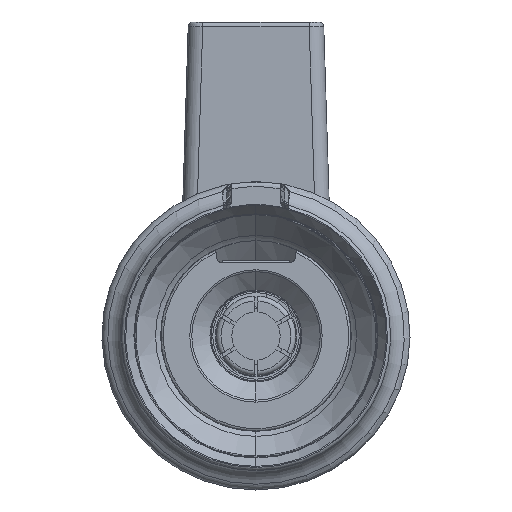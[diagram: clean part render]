
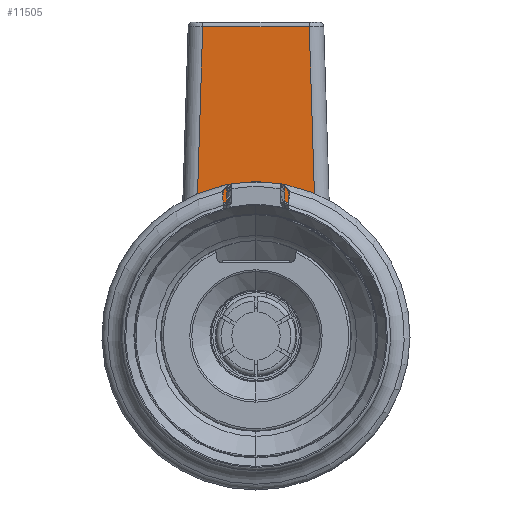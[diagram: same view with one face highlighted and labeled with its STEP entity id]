
A CAD part, front view. The second image highlights one B-rep face of the part: STEP entity #11505.
In plain terms, the highlighted planar face has unit normal (0, -1, 0).
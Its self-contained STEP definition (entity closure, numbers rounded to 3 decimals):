
#8000=DIRECTION('',(1.,0.,0.));
#8001=VECTOR('',#8000,11.029);
#8002=CARTESIAN_POINT('',(-5.515,57.35,32.));
#8003=LINE('',#8002,#8001);
#8004=DIRECTION('',(-0.031,0.,1.));
#8005=VECTOR('',#8004,23.61);
#8006=CARTESIAN_POINT('',(6.243,57.35,8.401));
#8007=LINE('',#8006,#8005);
#8008=CARTESIAN_POINT('',(0.,57.35,0.));
#8009=DIRECTION('',(0.,-1.,0.));
#8010=DIRECTION('',(0.596,0.,0.803));
#8011=AXIS2_PLACEMENT_3D('',#8008,#8009,#8010);
#8013=DIRECTION('',(-0.031,0.,-1.));
#8014=VECTOR('',#8013,23.61);
#8015=CARTESIAN_POINT('',(-5.515,57.35,32.));
#8016=LINE('',#8015,#8014);
#8500=CARTESIAN_POINT('',(-5.515,57.35,32.));
#8502=CARTESIAN_POINT('',(-6.243,57.35,8.401));
#8602=CARTESIAN_POINT('',(6.243,57.35,8.401));
#10101=VERTEX_POINT('',#8502);
#10108=VERTEX_POINT('',#8602);
#10151=VERTEX_POINT('',#8500);
#10154=CARTESIAN_POINT('',(5.515,57.35,32.));
#10155=VERTEX_POINT('',#10154);
#11490=CARTESIAN_POINT('',(0.,57.35,0.));
#11491=DIRECTION('',(0.,1.,0.));
#11492=DIRECTION('',(-1.,0.,0.));
#11493=AXIS2_PLACEMENT_3D('',#11490,#11491,#11492);
#11494=PLANE('',#11493);
#11496=ORIENTED_EDGE('',*,*,#11495,.T.);
#11498=ORIENTED_EDGE('',*,*,#11497,.F.);
#11500=ORIENTED_EDGE('',*,*,#11499,.T.);
#11502=ORIENTED_EDGE('',*,*,#11501,.F.);
#11503=EDGE_LOOP('',(#11496,#11498,#11500,#11502));
#11504=FACE_OUTER_BOUND('',#11503,.F.);
#11505=ADVANCED_FACE('',(#11504),#11494,.F.);
#8012=CIRCLE('',#8011,10.467);
#11495=EDGE_CURVE('',#10151,#10155,#8003,.T.);
#11497=EDGE_CURVE('',#10108,#10155,#8007,.T.);
#11499=EDGE_CURVE('',#10108,#10101,#8012,.T.);
#11501=EDGE_CURVE('',#10151,#10101,#8016,.T.);
